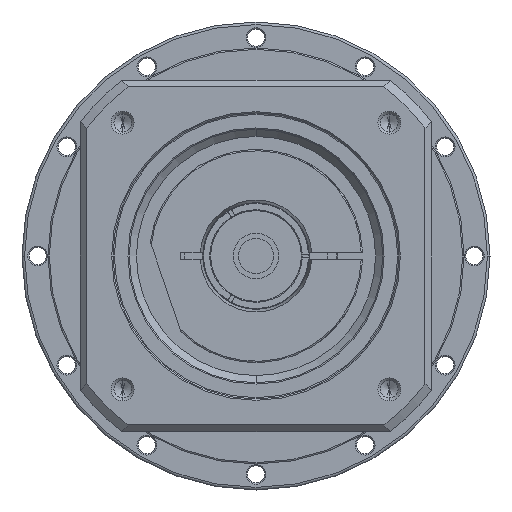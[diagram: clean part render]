
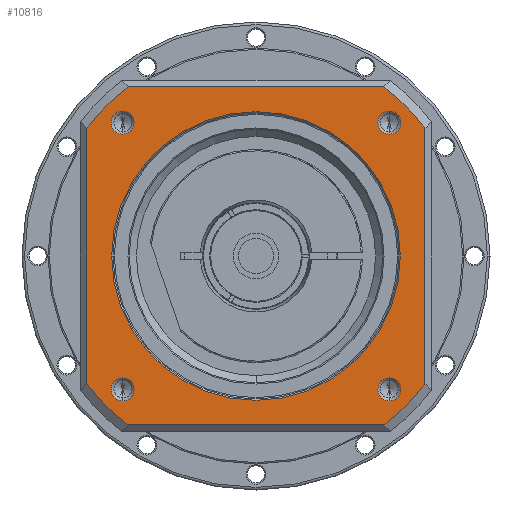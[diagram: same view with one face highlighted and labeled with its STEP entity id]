
A CAD part, left-side view. The second image highlights one B-rep face of the part: STEP entity #10816.
In plain terms, the highlighted planar face has unit normal (-1, 0, 0) as drawn and (0, 0, 1) by its records, which use the part's own axes.
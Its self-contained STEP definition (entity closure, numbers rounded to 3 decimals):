
#9556=CARTESIAN_POINT('',(0.,0.,56.));
#9557=DIRECTION('',(0.,0.,-1.));
#9558=DIRECTION('',(0.,-1.,0.));
#9559=AXIS2_PLACEMENT_3D('',#9556,#9557,#9558);
#9561=CARTESIAN_POINT('',(0.,0.,
56.));
#9562=DIRECTION('',(0.,0.,-1.));
#9563=DIRECTION('',(0.,1.,0.));
#9564=AXIS2_PLACEMENT_3D('',#9561,#9562,#9563);
#9566=DIRECTION('',(1.,0.,0.));
#9567=VECTOR('',#9566,98.331);
#9568=CARTESIAN_POINT('',(-49.166,65.,56.));
#9569=LINE('',#9568,#9567);
#9570=CARTESIAN_POINT('',(0.,0.,56.));
#9571=DIRECTION('',(0.,0.,1.));
#9572=DIRECTION('',(0.798,0.603,0.));
#9573=AXIS2_PLACEMENT_3D('',#9570,#9571,#9572);
#9575=DIRECTION('',(0.,1.,0.));
#9576=VECTOR('',#9575,98.331);
#9577=CARTESIAN_POINT('',(65.,-49.166,56.));
#9578=LINE('',#9577,#9576);
#9579=DIRECTION('',(1.,0.,0.));
#9580=VECTOR('',#9579,98.331);
#9581=CARTESIAN_POINT('',(-49.166,-65.,56.));
#9582=LINE('',#9581,#9580);
#9583=CARTESIAN_POINT('',(0.,0.,56.));
#9584=DIRECTION('',(0.,0.,1.));
#9585=DIRECTION('',(-0.798,-0.603,0.));
#9586=AXIS2_PLACEMENT_3D('',#9583,#9584,#9585);
#9588=DIRECTION('',(0.,1.,0.));
#9589=VECTOR('',#9588,98.331);
#9590=CARTESIAN_POINT('',(-65.,-49.166,56.));
#9591=LINE('',#9590,#9589);
#9606=CARTESIAN_POINT('',(0.,0.,56.));
#9607=DIRECTION('',(0.,0.,1.));
#9608=DIRECTION('',(-0.603,0.798,0.));
#9609=AXIS2_PLACEMENT_3D('',#9606,#9607,#9608);
#9616=CARTESIAN_POINT('',(0.,0.,56.));
#9617=DIRECTION('',(0.,0.,1.));
#9618=DIRECTION('',(0.603,-0.798,0.));
#9619=AXIS2_PLACEMENT_3D('',#9616,#9617,#9618);
#9633=CARTESIAN_POINT('',(-49.166,65.,56.));
#9725=CARTESIAN_POINT('',(65.,-49.166,56.));
#9753=CARTESIAN_POINT('',(49.166,-65.,56.));
#9793=CARTESIAN_POINT('',(-65.,49.166,56.));
#9802=CARTESIAN_POINT('',(-51.265,51.265,56.));
#9803=DIRECTION('',(0.,0.,1.));
#9804=DIRECTION('',(-1.,0.,0.));
#9805=AXIS2_PLACEMENT_3D('',#9802,#9803,#9804);
#9820=CARTESIAN_POINT('',(-51.265,51.265,56.));
#9821=DIRECTION('',(0.,0.,1.));
#9822=DIRECTION('',(1.,0.,0.));
#9823=AXIS2_PLACEMENT_3D('',#9820,#9821,#9822);
#9856=CARTESIAN_POINT('',(51.265,51.265,56.));
#9857=DIRECTION('',(0.,0.,1.));
#9858=DIRECTION('',(-1.,0.,0.));
#9859=AXIS2_PLACEMENT_3D('',#9856,#9857,#9858);
#9874=CARTESIAN_POINT('',(51.265,51.265,56.));
#9875=DIRECTION('',(0.,0.,1.));
#9876=DIRECTION('',(1.,0.,0.));
#9877=AXIS2_PLACEMENT_3D('',#9874,#9875,#9876);
#9910=CARTESIAN_POINT('',(51.265,-51.265,56.));
#9911=DIRECTION('',(0.,0.,1.));
#9912=DIRECTION('',(-1.,0.,0.));
#9913=AXIS2_PLACEMENT_3D('',#9910,#9911,#9912);
#9928=CARTESIAN_POINT('',(51.265,-51.265,56.));
#9929=DIRECTION('',(0.,0.,1.));
#9930=DIRECTION('',(1.,0.,0.));
#9931=AXIS2_PLACEMENT_3D('',#9928,#9929,#9930);
#9964=CARTESIAN_POINT('',(-51.265,-51.265,56.));
#9965=DIRECTION('',(0.,0.,1.));
#9966=DIRECTION('',(-1.,0.,0.));
#9967=AXIS2_PLACEMENT_3D('',#9964,#9965,#9966);
#9982=CARTESIAN_POINT('',(-51.265,-51.265,56.));
#9983=DIRECTION('',(0.,0.,1.));
#9984=DIRECTION('',(1.,0.,0.));
#9985=AXIS2_PLACEMENT_3D('',#9982,#9983,#9984);
#10147=CARTESIAN_POINT('',(-55.665,51.265,56.));
#10148=CARTESIAN_POINT('',(-46.865,51.265,56.));
#10149=VERTEX_POINT('',#10147);
#10150=VERTEX_POINT('',#10148);
#10173=CARTESIAN_POINT('',(-65.,-49.166,56.));
#10174=CARTESIAN_POINT('',(-49.166,-65.,56.));
#10175=VERTEX_POINT('',#10173);
#10176=VERTEX_POINT('',#10174);
#10177=CARTESIAN_POINT('',(65.,49.166,56.));
#10178=CARTESIAN_POINT('',(49.166,65.,56.));
#10179=VERTEX_POINT('',#10177);
#10180=VERTEX_POINT('',#10178);
#10189=VERTEX_POINT('',#9633);
#10192=VERTEX_POINT('',#9725);
#10193=VERTEX_POINT('',#9753);
#10196=VERTEX_POINT('',#9793);
#10205=CARTESIAN_POINT('',(55.665,51.265,56.));
#10206=CARTESIAN_POINT('',(46.865,51.265,56.));
#10207=VERTEX_POINT('',#10205);
#10208=VERTEX_POINT('',#10206);
#10213=CARTESIAN_POINT('',(55.665,-51.265,56.));
#10214=CARTESIAN_POINT('',(46.865,-51.265,56.));
#10215=VERTEX_POINT('',#10213);
#10216=VERTEX_POINT('',#10214);
#10221=CARTESIAN_POINT('',(-46.865,-51.265,56.));
#10222=CARTESIAN_POINT('',(-55.665,-51.265,56.));
#10223=VERTEX_POINT('',#10221);
#10224=VERTEX_POINT('',#10222);
#10229=CARTESIAN_POINT('',(0.,-55.5,56.));
#10230=CARTESIAN_POINT('',(0.,55.5,56.));
#10231=VERTEX_POINT('',#10229);
#10232=VERTEX_POINT('',#10230);
#10764=CARTESIAN_POINT('',(0.,0.,56.));
#10765=DIRECTION('',(0.,0.,1.));
#10766=DIRECTION('',(1.,0.,0.));
#10767=AXIS2_PLACEMENT_3D('',#10764,#10765,#10766);
#10768=PLANE('',#10767);
#10770=ORIENTED_EDGE('',*,*,#10769,.F.);
#10772=ORIENTED_EDGE('',*,*,#10771,.T.);
#10774=ORIENTED_EDGE('',*,*,#10773,.F.);
#10776=ORIENTED_EDGE('',*,*,#10775,.F.);
#10778=ORIENTED_EDGE('',*,*,#10777,.F.);
#10780=ORIENTED_EDGE('',*,*,#10779,.F.);
#10782=ORIENTED_EDGE('',*,*,#10781,.F.);
#10784=ORIENTED_EDGE('',*,*,#10783,.T.);
#10785=EDGE_LOOP('',(#10770,#10772,#10774,#10776,#10778,#10780,#10782,#10784));
#10786=FACE_OUTER_BOUND('',#10785,.F.);
#10787=ORIENTED_EDGE('',*,*,#10754,.F.);
#10789=ORIENTED_EDGE('',*,*,#10788,.F.);
#10790=EDGE_LOOP('',(#10787,#10789));
#10791=FACE_BOUND('',#10790,.F.);
#10793=ORIENTED_EDGE('',*,*,#10792,.T.);
#10795=ORIENTED_EDGE('',*,*,#10794,.T.);
#10796=EDGE_LOOP('',(#10793,#10795));
#10797=FACE_BOUND('',#10796,.F.);
#10799=ORIENTED_EDGE('',*,*,#10798,.T.);
#10801=ORIENTED_EDGE('',*,*,#10800,.T.);
#10802=EDGE_LOOP('',(#10799,#10801));
#10803=FACE_BOUND('',#10802,.F.);
#10805=ORIENTED_EDGE('',*,*,#10804,.T.);
#10807=ORIENTED_EDGE('',*,*,#10806,.T.);
#10808=EDGE_LOOP('',(#10805,#10807));
#10809=FACE_BOUND('',#10808,.F.);
#10811=ORIENTED_EDGE('',*,*,#10810,.T.);
#10813=ORIENTED_EDGE('',*,*,#10812,.T.);
#10814=EDGE_LOOP('',(#10811,#10813));
#10815=FACE_BOUND('',#10814,.F.);
#10816=ADVANCED_FACE('',(#10786,#10791,#10797,#10803,#10809,#10815),#10768,.T.);
#9560=CIRCLE('',#9559,55.5);
#9565=CIRCLE('',#9564,55.5);
#9574=CIRCLE('',#9573,81.5);
#9587=CIRCLE('',#9586,81.5);
#9610=CIRCLE('',#9609,81.5);
#9620=CIRCLE('',#9619,81.5);
#9806=CIRCLE('',#9805,4.4);
#9824=CIRCLE('',#9823,4.4);
#9860=CIRCLE('',#9859,4.4);
#9878=CIRCLE('',#9877,4.4);
#9914=CIRCLE('',#9913,4.4);
#9932=CIRCLE('',#9931,4.4);
#9968=CIRCLE('',#9967,4.4);
#9986=CIRCLE('',#9985,4.4);
#10754=EDGE_CURVE('',#10231,#10232,#9560,.T.);
#10769=EDGE_CURVE('',#10189,#10196,#9610,.T.);
#10771=EDGE_CURVE('',#10189,#10180,#9569,.T.);
#10773=EDGE_CURVE('',#10179,#10180,#9574,.T.);
#10775=EDGE_CURVE('',#10192,#10179,#9578,.T.);
#10777=EDGE_CURVE('',#10193,#10192,#9620,.T.);
#10779=EDGE_CURVE('',#10176,#10193,#9582,.T.);
#10781=EDGE_CURVE('',#10175,#10176,#9587,.T.);
#10783=EDGE_CURVE('',#10175,#10196,#9591,.T.);
#10788=EDGE_CURVE('',#10232,#10231,#9565,.T.);
#10792=EDGE_CURVE('',#10149,#10150,#9806,.T.);
#10794=EDGE_CURVE('',#10150,#10149,#9824,.T.);
#10798=EDGE_CURVE('',#10208,#10207,#9860,.T.);
#10800=EDGE_CURVE('',#10207,#10208,#9878,.T.);
#10804=EDGE_CURVE('',#10216,#10215,#9914,.T.);
#10806=EDGE_CURVE('',#10215,#10216,#9932,.T.);
#10810=EDGE_CURVE('',#10224,#10223,#9968,.T.);
#10812=EDGE_CURVE('',#10223,#10224,#9986,.T.);
